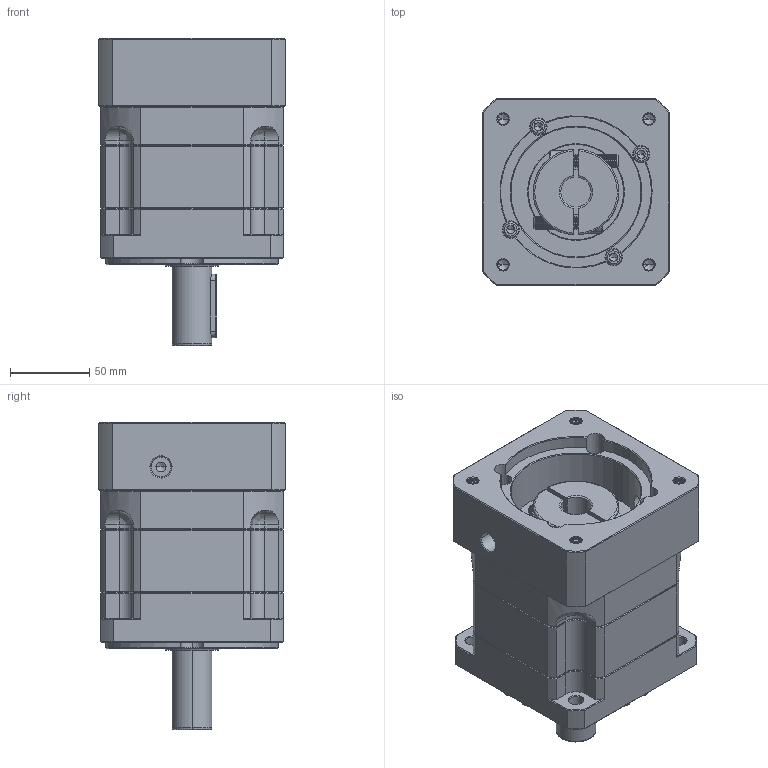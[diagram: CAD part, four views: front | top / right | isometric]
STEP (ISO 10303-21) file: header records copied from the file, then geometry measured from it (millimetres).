
FILE_DESCRIPTION (( 'STEP AP214' ), '1' );
FILE_NAME ('ZB115A-D25-L1-P2-19-95-130-M8.step', '2023-08-26T06:21:18', ( '' ), ( '' ), 'SwSTEP 2.0', 'SolidWorks 2016', '' );
FILE_SCHEMA (( 'AUTOMOTIVE_DESIGN' ));
Length unit declared in the file: millimetre
Products named in the file (1): ZB115A-D25-L1-P2-19-95-130-M8
Bounding box: 118 x 118 x 193.5 mm (x, y, z)
Volume: 1564365.9 mm3; surface area: 169504 mm2
Topology: 6 solids, 6 shells, 2402 faces, 6320 edges, 4014 vertices
Faces by surface type: plane 1144, cylinder 444, bspline 423, cone 371, torus 20
Entity records: 129544 total; most frequent: CARTESIAN_POINT 47426, ORIENTED_EDGE 12572, DIRECTION 9958, EDGE_CURVE 6286, VERTEX_POINT 4014, LINE 4004, VECTOR 4004, AXIS2_PLACEMENT_3D 2977
